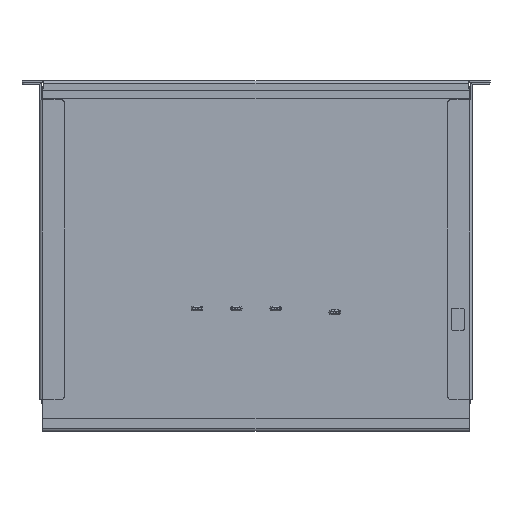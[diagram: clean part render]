
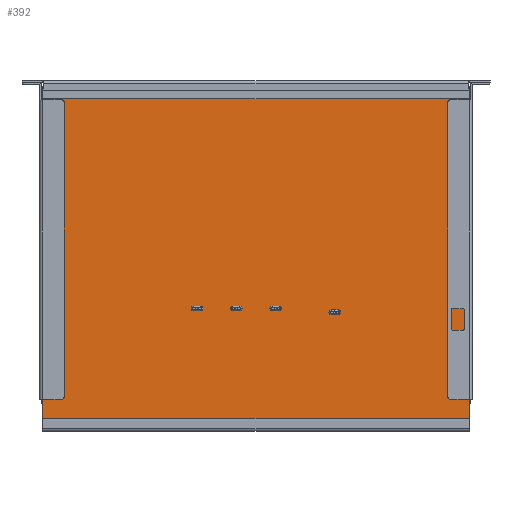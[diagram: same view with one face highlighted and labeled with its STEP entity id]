
A CAD part, front view. The second image highlights one B-rep face of the part: STEP entity #392.
In plain terms, the highlighted planar face has unit normal (0, -1, 0) as drawn and (0, 0, -1) by its records, which use the part's own axes.
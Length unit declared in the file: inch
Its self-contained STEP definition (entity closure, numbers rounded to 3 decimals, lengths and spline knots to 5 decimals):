
#82=DIRECTION('',(1.,0.,0.));
#83=VECTOR('',#82,17.312);
#84=CARTESIAN_POINT('',(-8.656,13.796,-0.06));
#85=LINE('',#84,#83);
#86=DIRECTION('',(0.,-1.,0.));
#87=VECTOR('',#86,13.796);
#88=CARTESIAN_POINT('',(-8.656,13.796,-0.06));
#89=LINE('',#88,#87);
#90=DIRECTION('',(0.,1.,0.));
#91=VECTOR('',#90,13.796);
#92=CARTESIAN_POINT('',(8.656,0.,-0.06));
#93=LINE('',#92,#91);
#94=DIRECTION('',(-1.,0.,0.));
#95=VECTOR('',#94,17.312);
#96=CARTESIAN_POINT('',(8.656,0.,-0.06));
#97=LINE('',#96,#95);
#194=CARTESIAN_POINT('',(-8.656,13.796,-0.06));
#195=CARTESIAN_POINT('',(-8.656,0.,-0.06));
#196=VERTEX_POINT('',#194);
#197=VERTEX_POINT('',#195);
#198=CARTESIAN_POINT('',(8.656,0.,-0.06));
#199=CARTESIAN_POINT('',(8.656,13.796,-0.06));
#200=VERTEX_POINT('',#198);
#201=VERTEX_POINT('',#199);
#380=CARTESIAN_POINT('',(0.,0.,-0.06));
#381=DIRECTION('',(0.,0.,1.));
#382=DIRECTION('',(1.,0.,0.));
#383=AXIS2_PLACEMENT_3D('',#380,#381,#382);
#384=PLANE('',#383);
#385=ORIENTED_EDGE('',*,*,#372,.F.);
#386=ORIENTED_EDGE('',*,*,#258,.T.);
#388=ORIENTED_EDGE('',*,*,#387,.F.);
#389=ORIENTED_EDGE('',*,*,#317,.T.);
#390=EDGE_LOOP('',(#385,#386,#388,#389));
#391=FACE_OUTER_BOUND('',#390,.F.);
#392=ADVANCED_FACE('',(#391),#384,.F.);
#258=EDGE_CURVE('',#196,#197,#89,.T.);
#317=EDGE_CURVE('',#200,#201,#93,.T.);
#372=EDGE_CURVE('',#196,#201,#85,.T.);
#387=EDGE_CURVE('',#200,#197,#97,.T.);
